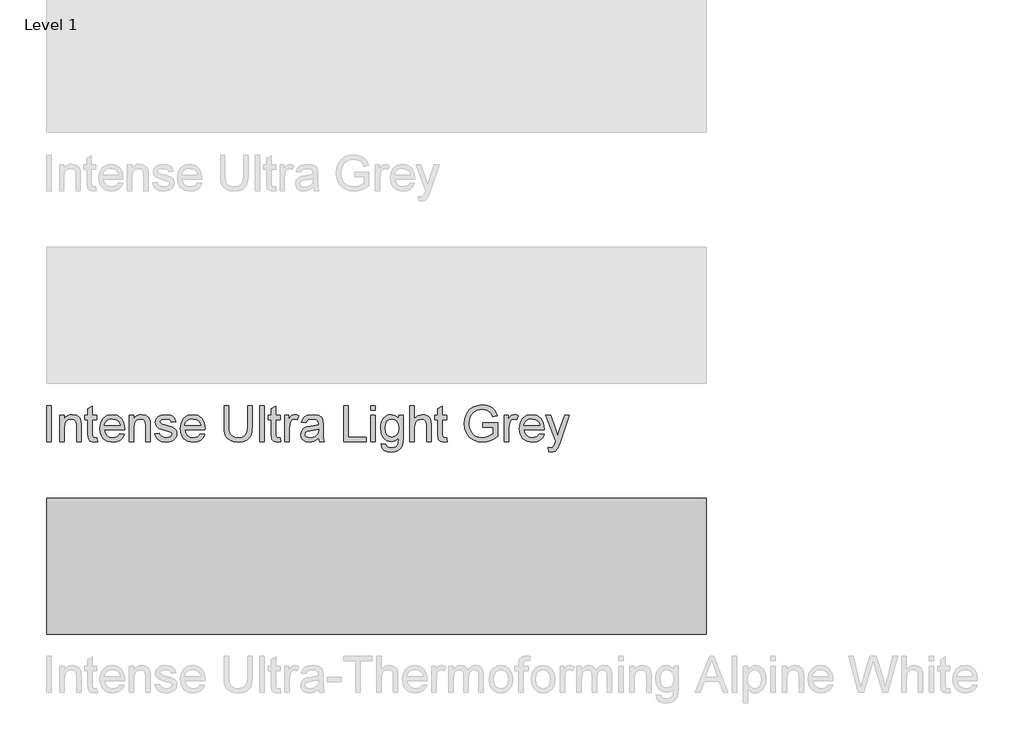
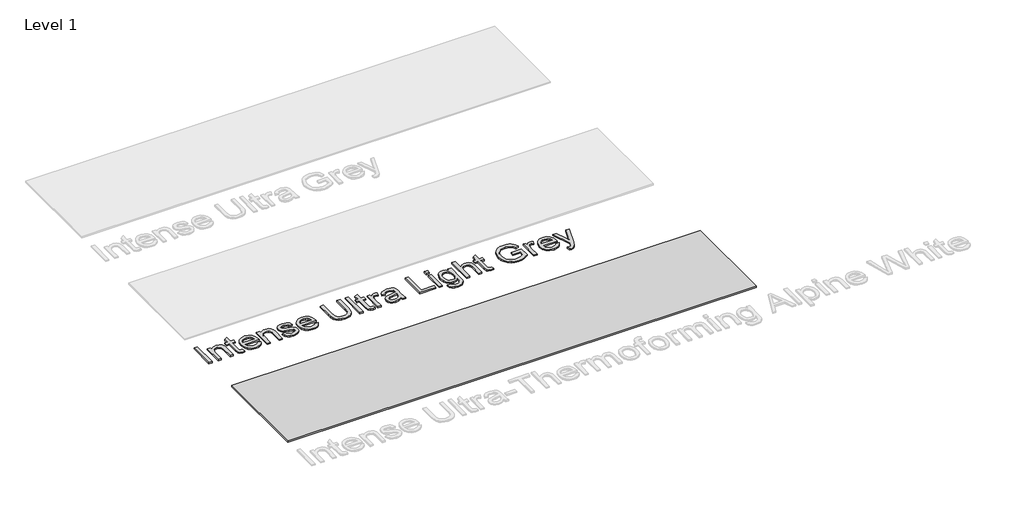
# One storey, part 1 of 4: 2 proxies.
"""IFC4 building model written with IfcOpenShell, lengths in millimetres."""

from ifc_helpers import new_model, si_unit, origin, origin_with_axes, place, context, project, spatial, polyline, outline, extrude, transform, mapped, element, save
from components import generic_models_7f56e2ab

model = new_model("IFC4")

# Units and contexts
model_context = context("Model", 3, world=origin())
ifc_project = project(units=[si_unit("LENGTHUNIT", "METRE", prefix="MILLI")], contexts=[model_context])

# Site, building, storey
site = spatial("IfcSite", under=ifc_project)
building = spatial("IfcBuilding", under=site)
storey = spatial("IfcBuildingStorey", under=building, Name="Level 1", Elevation=0.0)

# Proxies
placement = place(None, origin())
generic_models_shape = generic_models_7f56e2ab(model_context)
element("IfcBuildingElementProxy", 1, Name="Kitchen_Counter-Tops_Indoor-Material_HIMACS_Intense-Ultra : Intense-Ultra-Termoforming-Alpine-White_12mm_760x3680mm", ObjectType="Kitchen_Counter-Tops_Indoor-Material_HIMACS_Intense-Ultra : Intense-Ultra-Termoforming-Alpine-White_12mm_760x3680mm", at=placement, inside=storey, context=model_context, shape_type="MappedRepresentation", body=[
    mapped(generic_models_shape, transform((-20102.2995655, -149119.5662367, 0.0), x_axis=(1.0, 0.0, 0.0), y_axis=(0.0, 1.0, 0.0), z_axis=(0.0, 0.0, 1.0))),
])
element("IfcBuildingElementProxy", 2, Name="600mm Arial", ObjectType="600mm Arial", at=placement, inside=storey, context=model_context, shape_type="SweptSolid", body=[
    extrude(outline(polyline([(-21940.2601718, -148424.4754206), (-21940.2601718, -148223.5628003), (-21915.1460943, -148223.5628003), (-21915.1460943, -148424.4754206), (-21940.2601718, -148424.4754206)])), origin_with_axes(), (0.0, 0.0, 1.0), 10.0),
    extrude(outline(polyline([(-21868.0571989, -148424.4754206), (-21868.0571989, -148276.930215), (-21842.9431214, -148276.930215), (-21842.9431214, -148297.5316068), (-21834.2181867, -148287.1450718), (-21823.7396812, -148279.7261182), (-21811.5076049, -148275.2747461), (-21797.5219577, -148273.7909553), (-21773.8058317, -148278.5734213), (-21757.619024, -148291.1304601), (-21750.0897058, -148309.5981362), (-21748.7653306, -148333.8783479), (-21748.7653306, -148424.4754206), (-21773.8794081, -148424.4754206), (-21773.8794081, -148337.2628622), (-21776.7734132, -148315.0427897), (-21787.0005326, -148303.2950914), (-21804.2419355, -148298.9050329), (-21818.9510839, -148301.3698423), (-21831.4897286, -148308.7642704), (-21840.0797732, -148323.0503545), (-21842.9431214, -148346.190132), (-21842.9431214, -148424.4754206), (-21868.0571989, -148424.4754206)])), origin_with_axes(), (0.0, 0.0, 1.0), 10.0),
    extrude(outline(polyline([(-21660.8660592, -148403.5306723), (-21657.7267995, -148425.2111846), (-21676.5133068, -148427.6146803), (-21697.5561569, -148423.445351), (-21708.0530565, -148412.506993), (-21711.0942143, -148384.0084011), (-21711.0942143, -148302.0442926), (-21729.9297725, -148302.0442926), (-21729.9297725, -148276.930215), (-21711.0942143, -148276.930215), (-21711.0942143, -148241.0739832), (-21685.9801368, -148226.3096525), (-21685.9801368, -148276.930215), (-21660.8660592, -148276.930215), (-21660.8660592, -148302.0442926), (-21685.9801368, -148302.0442926), (-21685.9801368, -148383.2726371), (-21684.6557616, -148396.2220833), (-21680.363805, -148400.8083455), (-21671.8044172, -148402.5006027), (-21660.8660592, -148403.5306723)])), origin_with_axes(), (0.0, 0.0, 1.0), 10.0),
    extrude(outline(polyline([(-21532.4507174, -148380.5257849), (-21507.8271492, -148383.6650446), (-21516.6992367, -148402.2185599), (-21530.8565621, -148416.0877111), (-21549.9802945, -148424.732938), (-21573.7516028, -148427.6146803), (-21603.2189506, -148422.642142), (-21625.8927442, -148407.7245271), (-21640.3505066, -148383.8305915), (-21645.1697608, -148351.9290911), (-21640.3014557, -148318.9546016), (-21625.6965405, -148294.2942452), (-21603.3293152, -148278.9167778), (-21575.1740798, -148273.7909553), (-21547.8956299, -148278.9045151), (-21526.0986217, -148294.2451943), (-21511.8064061, -148318.8564998), (-21507.0423343, -148351.7819383), (-21507.1894871, -148358.550967), (-21620.0556832, -148358.550967), (-21615.7085443, -148377.349737), (-21605.6101835, -148391.1698373), (-21591.0359252, -148399.6679114), (-21573.2610934, -148402.5006027), (-21548.6375252, -148397.2521529), (-21539.4895263, -148390.446336), (-21532.4507174, -148380.5257849)]), holes=[polyline([(-21620.0556832, -148333.4368895), (-21532.1564118, -148333.4368895), (-21535.5531889, -148320.1686122), (-21542.211853, -148310.6772567), (-21556.8535565, -148301.8480888), (-21575.2721817, -148298.9050329), (-21592.2008848, -148301.2533463), (-21606.1987947, -148308.2982865), (-21615.9292735, -148319.2795641), (-21620.0556832, -148333.4368895)])]), origin_with_axes(), (0.0, 0.0, 1.0), 10.0),
    extrude(outline(polyline([(-21481.9282568, -148424.4754206), (-21481.9282568, -148276.930215), (-21456.8141792, -148276.930215), (-21456.8141792, -148297.5316068), (-21448.0892446, -148287.1450718), (-21437.6107391, -148279.7261182), (-21425.3786627, -148275.2747461), (-21411.3930156, -148273.7909553), (-21387.6768896, -148278.5734213), (-21371.4900818, -148291.1304601), (-21363.9607637, -148309.5981362), (-21362.6363885, -148333.8783479), (-21362.6363885, -148424.4754206), (-21387.750466, -148424.4754206), (-21387.750466, -148337.2628622), (-21390.644471, -148315.0427897), (-21400.8715905, -148303.2950914), (-21418.1129933, -148298.9050329), (-21432.8221418, -148301.3698423), (-21445.3607865, -148308.7642704), (-21453.950831, -148323.0503545), (-21456.8141792, -148346.190132), (-21456.8141792, -148424.4754206), (-21481.9282568, -148424.4754206)])), origin_with_axes(), (0.0, 0.0, 1.0), 10.0),
    extrude(outline(polyline([(-21337.5223109, -148380.5257849), (-21312.4082334, -148377.3865252), (-21308.4473706, -148388.1286794), (-21300.7831623, -148396.0258796), (-21289.3665578, -148400.8819219), (-21274.1485059, -148402.5006027), (-21259.114395, -148401.016812), (-21248.543919, -148396.5654399), (-21242.2899251, -148390.1152422), (-21240.2052605, -148382.634975), (-21242.3021878, -148376.2338283), (-21248.59297, -148371.3532605), (-21274.4428115, -148364.1918243), (-21312.2610806, -148351.9045657), (-21321.8321438, -148345.7302795), (-21328.7667194, -148337.5571678), (-21334.3830512, -148317.2991326), (-21329.8703654, -148298.5862018), (-21317.5585813, -148284.2878549), (-21301.5925027, -148276.8566386), (-21279.9855669, -148273.7909553), (-21249.4268358, -148278.7205741), (-21237.9979685, -148284.5208469), (-21230.0026665, -148292.0624278), (-21221.3697023, -148314.6013313), (-21246.4837799, -148317.740591), (-21249.6536964, -148309.8372595), (-21255.9260844, -148303.8837026), (-21278.0235296, -148298.9050329), (-21292.4445038, -148300.094518), (-21302.0584866, -148303.6629734), (-21307.4663519, -148308.8133213), (-21309.2689737, -148314.7484841), (-21306.2768668, -148322.0570731), (-21296.9081387, -148327.5998285), (-21275.2766773, -148332.9463802), (-21238.4149014, -148344.767655), (-21221.2961259, -148358.1585596), (-21216.6424187, -148368.0055343), (-21215.0911829, -148379.9862246), (-21216.9121988, -148392.3715851), (-21222.3752464, -148404.0211816), (-21231.2718594, -148414.0214405), (-21243.3935711, -148421.4587882), (-21258.0352745, -148426.0757073), (-21274.4918624, -148427.6146803), (-21299.8144064, -148424.6470988), (-21318.2943453, -148415.7443546), (-21330.6306549, -148401.0045493), (-21337.5223109, -148380.5257849)])), origin_with_axes(), (0.0, 0.0, 1.0), 10.0),
    extrude(outline(polyline([(-21083.5365815, -148380.5257849), (-21058.9130133, -148383.6650446), (-21067.7851007, -148402.2185599), (-21081.9424261, -148416.0877111), (-21101.0661585, -148424.732938), (-21124.8374668, -148427.6146803), (-21154.3048146, -148422.642142), (-21176.9786082, -148407.7245271), (-21191.4363706, -148383.8305915), (-21196.2556248, -148351.9290911), (-21191.3873197, -148318.9546016), (-21176.7824045, -148294.2942452), (-21154.4151792, -148278.9167778), (-21126.2599438, -148273.7909553), (-21098.9814939, -148278.9045151), (-21077.1844857, -148294.2451943), (-21062.8922702, -148318.8564998), (-21058.1281983, -148351.7819383), (-21058.2753511, -148358.550967), (-21171.1415472, -148358.550967), (-21166.7944083, -148377.349737), (-21156.6960476, -148391.1698373), (-21142.1217892, -148399.6679114), (-21124.3469575, -148402.5006027), (-21099.7233892, -148397.2521529), (-21090.5753903, -148390.446336), (-21083.5365815, -148380.5257849)]), holes=[polyline([(-21171.1415472, -148333.4368895), (-21083.2422759, -148333.4368895), (-21086.639053, -148320.1686122), (-21093.2977171, -148310.6772567), (-21107.9394205, -148301.8480888), (-21126.3580457, -148298.9050329), (-21143.2867488, -148301.2533463), (-21157.2846588, -148308.2982865), (-21167.0151375, -148319.2795641), (-21171.1415472, -148333.4368895)])]), origin_with_axes(), (0.0, 0.0, 1.0), 10.0),
    extrude(outline(polyline([(-20819.5444617, -148223.5628003), (-20794.4303842, -148223.5628003), (-20794.4303842, -148339.4701542), (-20796.1349041, -148366.6137141), (-20801.2484638, -148387.5155428), (-20810.801133, -148403.6410369), (-20825.8229811, -148416.4555931), (-20846.3507964, -148424.8249085), (-20872.4213672, -148427.6146803), (-20897.9217208, -148425.1866591), (-20918.3085147, -148417.9025956), (-20933.5878802, -148406.0138758), (-20943.7659488, -148389.7718857), (-20949.4865138, -148367.9871402), (-20951.3933688, -148339.4701542), (-20951.3933688, -148223.5628003), (-20926.2792913, -148223.5628003), (-20926.2792913, -148338.5872374), (-20925.0407552, -148361.1567978), (-20921.3251471, -148376.8714904), (-20914.5929065, -148387.7546661), (-20904.3044734, -148395.8296759), (-20890.8890433, -148400.832871), (-20874.7758119, -148402.5006027), (-20849.2325387, -148399.2019275), (-20832.2486533, -148389.3059018), (-20822.7205096, -148370.0288853), (-20819.5444617, -148338.5872374), (-20819.5444617, -148223.5628003)])), origin_with_axes(), (0.0, 0.0, 1.0), 10.0),
    extrude(outline(polyline([(-20753.6200082, -148424.4754206), (-20753.6200082, -148223.5628003), (-20728.5059306, -148223.5628003), (-20728.5059306, -148424.4754206), (-20753.6200082, -148424.4754206)])), origin_with_axes(), (0.0, 0.0, 1.0), 10.0),
    extrude(outline(polyline([(-20637.4673996, -148403.5306723), (-20634.3281399, -148425.2111846), (-20653.1146471, -148427.6146803), (-20674.1574972, -148423.445351), (-20684.6543968, -148412.506993), (-20687.6955547, -148384.0084011), (-20687.6955547, -148302.0442926), (-20706.5311128, -148302.0442926), (-20706.5311128, -148276.930215), (-20687.6955547, -148276.930215), (-20687.6955547, -148241.0739832), (-20662.5814771, -148226.3096525), (-20662.5814771, -148276.930215), (-20637.4673996, -148276.930215), (-20637.4673996, -148302.0442926), (-20662.5814771, -148302.0442926), (-20662.5814771, -148383.2726371), (-20661.2571019, -148396.2220833), (-20656.9651453, -148400.8083455), (-20648.4057576, -148402.5006027), (-20637.4673996, -148403.5306723)])), origin_with_axes(), (0.0, 0.0, 1.0), 10.0),
    extrude(outline(polyline([(-20612.353322, -148424.4754206), (-20612.353322, -148276.930215), (-20590.3785042, -148276.930215), (-20590.3785042, -148298.7578801), (-20574.7803076, -148278.6469977), (-20559.0840091, -148273.7909553), (-20546.5760213, -148275.7284672), (-20533.8718297, -148281.5410027), (-20542.2595392, -148304.0553808), (-20559.917875, -148298.9050329), (-20574.11812, -148303.8591771), (-20583.1680171, -148317.5934382), (-20587.2392445, -148346.925896), (-20587.2392445, -148424.4754206), (-20612.353322, -148424.4754206)])), origin_with_axes(), (0.0, 0.0, 1.0), 10.0),
    extrude(outline(polyline([(-20423.9977405, -148405.6398624), (-20448.3515286, -148422.6605361), (-20475.2559652, -148427.6146803), (-20496.243633, -148424.6348361), (-20511.7253336, -148415.6953036), (-20521.2718714, -148402.120458), (-20524.4540507, -148385.2346744), (-20519.6470593, -148365.3690467), (-20507.0164441, -148350.9480725), (-20489.4316847, -148342.7075158), (-20467.7021215, -148338.930594), (-20424.1448933, -148330.2976298), (-20423.9977405, -148324.7058235), (-20425.7267859, -148313.4976854), (-20430.913922, -148306.1645709), (-20442.5144676, -148300.7199174), (-20458.6767499, -148298.9050329), (-20473.6372844, -148300.1129121), (-20484.0851331, -148303.7365498), (-20491.209781, -148310.4381334), (-20496.2007134, -148320.8798507), (-20521.314791, -148317.740591), (-20510.4500094, -148293.2151247), (-20501.1916458, -148284.9623053), (-20488.5732934, -148278.8432014), (-20455.4393884, -148273.7909553), (-20425.0032846, -148278.2545902), (-20407.8109327, -148289.4627283), (-20400.1099363, -148306.5079275), (-20398.883663, -148328.4827453), (-20398.883663, -148359.7281894), (-20397.6083387, -148403.358994), (-20392.6051436, -148424.4754206), (-20417.7192211, -148424.4754206), (-20423.9977405, -148405.6398624)]), holes=[polyline([(-20423.9977405, -148355.4117073), (-20464.5138109, -148363.1127038), (-20486.1207468, -148367.1839312), (-20495.9064078, -148373.8058071), (-20499.3399731, -148383.4688408), (-20497.4699063, -148390.9368453), (-20491.8597059, -148397.0559492), (-20482.6319992, -148401.1394393), (-20469.9094135, -148402.5006027), (-20456.420407, -148400.9984179), (-20444.5010304, -148396.4918635), (-20428.1180189, -148381.9482619), (-20424.1448933, -148362.5240926), (-20423.9977405, -148355.4117073)])]), origin_with_axes(), (0.0, 0.0, 1.0), 10.0),
    extrude(outline(polyline([(-20282.7310544, -148424.4754206), (-20282.7310544, -148223.5628003), (-20257.6169768, -148223.5628003), (-20257.6169768, -148399.361343), (-20157.1606667, -148399.361343), (-20157.1606667, -148424.4754206), (-20282.7310544, -148424.4754206)])), origin_with_axes(), (0.0, 0.0, 1.0), 10.0),
    extrude(outline(polyline([(-20132.0465891, -148424.4754206), (-20132.0465891, -148276.930215), (-20106.9325116, -148276.930215), (-20106.9325116, -148424.4754206), (-20132.0465891, -148424.4754206)])), origin_with_axes(), (0.0, 0.0, 1.0), 10.0),
    extrude(outline(polyline([(-20132.0465891, -148248.6768778), (-20132.0465891, -148223.5628003), (-20106.9325116, -148223.5628003), (-20106.9325116, -148248.6768778), (-20132.0465891, -148248.6768778)])), origin_with_axes(), (0.0, 0.0, 1.0), 10.0),
    extrude(outline(polyline([(-20075.5399147, -148437.0324593), (-20050.4258371, -148440.171719), (-20047.6544594, -148448.0198683), (-20042.2833823, -148453.4154709), (-20031.7251691, -148457.6093256), (-20017.9050688, -148459.0072772), (-20003.1652635, -148457.4253846), (-19992.20238, -148452.6797069), (-19984.5994855, -148445.0768123), (-19979.9396469, -148434.9232692), (-19978.2228642, -148405.6398624), (-19995.9057255, -148419.766531), (-20017.4636104, -148424.4754206), (-20043.3563715, -148418.9939788), (-20062.6640448, -148402.5496537), (-20074.675392, -148378.4411202), (-20078.6791744, -148349.9670538), (-20076.882684, -148329.6906245), (-20071.4932127, -148311.0451387), (-20062.700833, -148295.244607), (-20050.6956173, -148283.50304), (-20035.888367, -148276.2189765), (-20018.6898837, -148273.7909553), (-19996.2858702, -148279.2846598), (-19978.2228642, -148295.7657732), (-19978.2228642, -148276.930215), (-19953.1087867, -148276.930215), (-19953.1087867, -148404.3154872), (-19954.8255693, -148433.7276528), (-19959.9759173, -148453.0966398), (-19968.8480047, -148465.9418528), (-19981.7300059, -148475.7826962), (-19998.339878, -148482.0366901), (-20018.3955781, -148484.1213547), (-20041.7622162, -148481.1844301), (-20060.1624473, -148472.3736563), (-20071.965328, -148457.6645079), (-20075.5399147, -148437.0324593)]), holes=[polyline([(-20053.5650968, -148348.2502712), (-20050.8856896, -148371.2858154), (-20042.847468, -148387.1231353), (-20030.7625445, -148396.3017911), (-20015.9430315, -148399.361343), (-20001.233883, -148396.3201852), (-19989.0876458, -148387.1967117), (-19980.9390596, -148371.5617269), (-19978.2228642, -148348.9860352), (-19981.0187674, -148327.2135524), (-19989.4064769, -148311.5356481), (-20001.7305237, -148302.0626867), (-20016.3354389, -148298.9050329), (-20030.6767054, -148302.0136357), (-20042.7003152, -148311.3394443), (-20050.8489014, -148326.7843568), (-20053.5650968, -148348.2502712)])]), origin_with_axes(), (0.0, 0.0, 1.0), 10.0),
    extrude(outline(polyline([(-19915.4376704, -148424.4754206), (-19915.4376704, -148223.5628003), (-19890.3235928, -148223.5628003), (-19890.3235928, -148297.4335049), (-19870.740008, -148279.7015927), (-19846.6192118, -148273.7909553), (-19831.4502109, -148275.4035048), (-19818.4149255, -148280.241153), (-19808.1510178, -148287.9237553), (-19801.29615, -148298.071167), (-19797.4333891, -148312.0138946), (-19796.1458021, -148331.0824447), (-19796.1458021, -148424.4754206), (-19821.2598796, -148424.4754206), (-19821.2598796, -148333.6821442), (-19823.2587051, -148317.9613202), (-19829.2551816, -148307.1946405), (-19838.9182154, -148300.9774348), (-19851.9167125, -148298.9050329), (-19872.4935788, -148304.4968392), (-19880.7463982, -148311.0819269), (-19886.22784, -148319.6535774), (-19890.3235928, -148346.0920301), (-19890.3235928, -148424.4754206), (-19915.4376704, -148424.4754206)])), origin_with_axes(), (0.0, 0.0, 1.0), 10.0),
    extrude(outline(polyline([(-19708.2465307, -148403.5306723), (-19705.107271, -148425.2111846), (-19723.8937782, -148427.6146803), (-19744.9366283, -148423.445351), (-19755.4335279, -148412.506993), (-19758.4746858, -148384.0084011), (-19758.4746858, -148302.0442926), (-19777.3102439, -148302.0442926), (-19777.3102439, -148276.930215), (-19758.4746858, -148276.930215), (-19758.4746858, -148241.0739832), (-19733.3606082, -148226.3096525), (-19733.3606082, -148276.930215), (-19708.2465307, -148276.930215), (-19708.2465307, -148302.0442926), (-19733.3606082, -148302.0442926), (-19733.3606082, -148383.2726371), (-19732.036233, -148396.2220833), (-19727.7442764, -148400.8083455), (-19719.1848887, -148402.5006027), (-19708.2465307, -148403.5306723)])), origin_with_axes(), (0.0, 0.0, 1.0), 10.0),
    extrude(outline(polyline([(-19507.3339104, -148345.9939283), (-19507.3339104, -148320.8798507), (-19425.7131584, -148320.8798507), (-19425.7131584, -148395.9768287), (-19445.5481293, -148409.7724035), (-19466.0084996, -148419.6684292), (-19487.0452184, -148425.6281175), (-19508.6092346, -148427.6146803), (-19536.7828641, -148424.4570265), (-19562.2464295, -148414.9840651), (-19583.3996443, -148399.5268899), (-19598.6422216, -148378.4165948), (-19607.8576656, -148353.0940508), (-19610.9294802, -148325.0001291), (-19607.8699283, -148296.7038723), (-19598.6912725, -148270.3819155), (-19583.7736576, -148248.3028644), (-19563.4972283, -148232.7353247), (-19538.8000837, -148223.5014866), (-19510.6203229, -148220.4235406), (-19489.933092, -148222.2077683), (-19471.3305258, -148227.5604513), (-19455.6648842, -148236.0953136), (-19443.7884271, -148247.426079), (-19435.0021788, -148262.0984393), (-19428.6071634, -148280.6580859), (-19451.7592037, -148287.18186), (-19463.2125964, -148263.9562433), (-19482.7839186, -148250.5653387), (-19511.0127303, -148245.5376181), (-19543.1656167, -148250.9577462), (-19565.0423327, -148265.1825167), (-19577.9672535, -148284.5331096), (-19583.8533654, -148303.4912951), (-19585.8154027, -148323.9700595), (-19583.4548266, -148347.9866224), (-19576.3730982, -148367.7480169), (-19564.7848153, -148383.1132216), (-19548.9045758, -148393.941215), (-19530.3204037, -148400.3607558), (-19510.6203229, -148402.5006027), (-19493.2256359, -148400.8880533), (-19476.2601445, -148396.0504051), (-19450.8272359, -148382.2916185), (-19450.8272359, -148345.9939283), (-19507.3339104, -148345.9939283)])), origin_with_axes(), (0.0, 0.0, 1.0), 10.0),
    extrude(outline(polyline([(-19388.0420421, -148424.4754206), (-19388.0420421, -148276.930215), (-19366.0672242, -148276.930215), (-19366.0672242, -148298.7578801), (-19350.4690276, -148278.6469977), (-19334.7727292, -148273.7909553), (-19322.2647414, -148275.7284672), (-19309.5605498, -148281.5410027), (-19317.9482593, -148304.0553808), (-19335.606595, -148298.9050329), (-19349.8068401, -148303.8591771), (-19358.8567371, -148317.5934382), (-19362.9279646, -148346.925896), (-19362.9279646, -148424.4754206), (-19388.0420421, -148424.4754206)])), origin_with_axes(), (0.0, 0.0, 1.0), 10.0),
    extrude(outline(polyline([(-19190.5629871, -148380.5257849), (-19165.9394189, -148383.6650446), (-19174.8115063, -148402.2185599), (-19188.9688318, -148416.0877111), (-19208.0925641, -148424.732938), (-19231.8638724, -148427.6146803), (-19261.3312202, -148422.642142), (-19284.0050139, -148407.7245271), (-19298.4627763, -148383.8305915), (-19303.2820304, -148351.9290911), (-19298.4137253, -148318.9546016), (-19283.8088101, -148294.2942452), (-19261.4415848, -148278.9167778), (-19233.2863495, -148273.7909553), (-19206.0078995, -148278.9045151), (-19184.2108913, -148294.2451943), (-19169.9186758, -148318.8564998), (-19165.1546039, -148351.7819383), (-19165.3017567, -148358.550967), (-19278.1679529, -148358.550967), (-19273.820814, -148377.349737), (-19263.7224532, -148391.1698373), (-19249.1481948, -148399.6679114), (-19231.3733631, -148402.5006027), (-19206.7497949, -148397.2521529), (-19197.6017959, -148390.446336), (-19190.5629871, -148380.5257849)]), holes=[polyline([(-19278.1679529, -148333.4368895), (-19190.2686815, -148333.4368895), (-19193.6654586, -148320.1686122), (-19200.3241227, -148310.6772567), (-19214.9658261, -148301.8480888), (-19233.3844513, -148298.9050329), (-19250.3131545, -148301.2533463), (-19264.3110644, -148308.2982865), (-19274.0415432, -148319.2795641), (-19278.1679529, -148333.4368895)])]), origin_with_axes(), (0.0, 0.0, 1.0), 10.0),
    extrude(outline(polyline([(-19140.0405264, -148480.982095), (-19143.1797861, -148456.7999852), (-19130.4265436, -148459.0072772), (-19118.507167, -148456.2358995), (-19111.198578, -148448.5103776), (-19104.3314474, -148430.018176), (-19102.3694101, -148423.9358603), (-19155.7368249, -148276.930215), (-19129.2493212, -148276.930215), (-19100.9469331, -148358.8452726), (-19091.0876956, -148391.6112957), (-19081.2284581, -148362.6712454), (-19052.141255, -148276.930215), (-19025.8499551, -148276.930215), (-19077.2062816, -148428.0070877), (-19090.5481353, -148460.7731108), (-19105.1162623, -148478.4804975), (-19124.6875845, -148484.1213547), (-19140.0405264, -148480.982095)])), origin_with_axes(), (0.0, 0.0, 1.0), 10.0),
])

save(model, "model.ifc")
